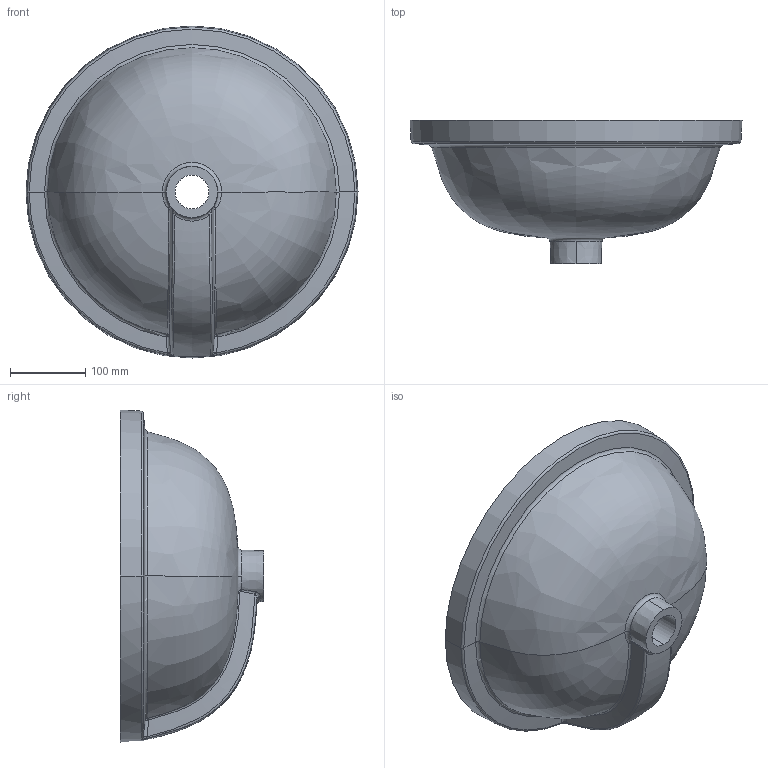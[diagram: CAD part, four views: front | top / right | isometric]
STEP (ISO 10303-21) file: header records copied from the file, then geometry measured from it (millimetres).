
FILE_DESCRIPTION (( 'STEP AP203' ), '1' );
FILE_NAME ('MA037-00CB00E-0000.STEP', '2023-01-03T10:43:01', ( '' ), ( '' ), 'SwSTEP 2.0', 'SolidWorks 2021', '' );
FILE_SCHEMA (( 'CONFIG_CONTROL_DESIGN' ));
Length unit declared in the file: inch
Products named in the file (1): MA037-00CB00E-0000
Bounding box: 440.03 x 190 x 440.03 mm (x, y, z)
Volume: 3630719.8 mm3; surface area: 524699.7 mm2
Topology: 2 solids, 2 shells, 94 faces, 232 edges, 140 vertices
Faces by surface type: bspline 35, torus 23, plane 17, cylinder 10, cone 9
Entity records: 8841 total; most frequent: CARTESIAN_POINT 6747, ORIENTED_EDGE 456, DIRECTION 388, EDGE_CURVE 228, AXIS2_PLACEMENT_3D 171, VERTEX_POINT 140, CIRCLE 111, EDGE_LOOP 100
